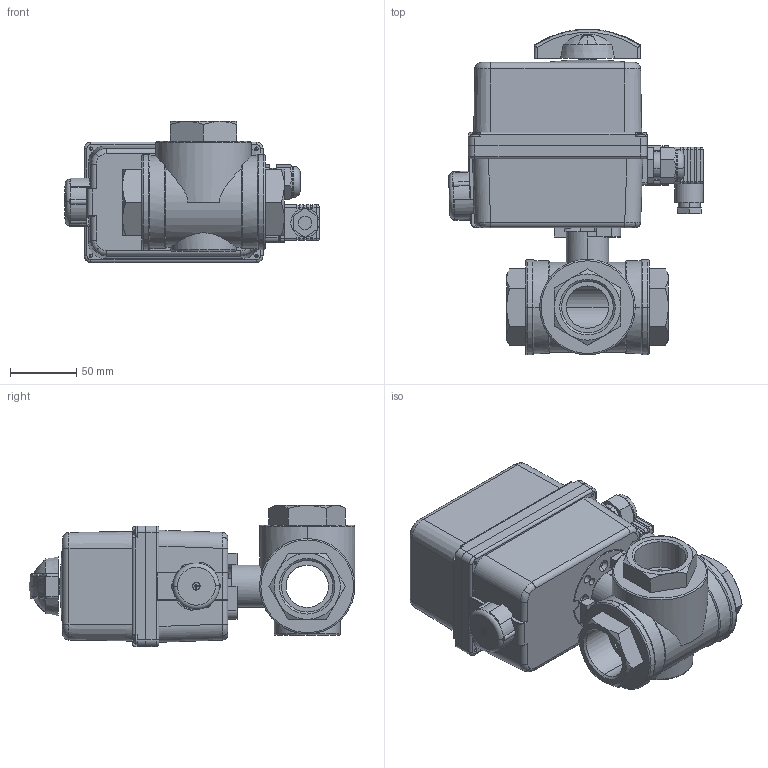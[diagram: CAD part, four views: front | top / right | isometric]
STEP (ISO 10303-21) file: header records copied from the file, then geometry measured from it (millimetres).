
FILE_DESCRIPTION (( 'STEP AP214' ), '1' );
FILE_NAME ('A35 DN32 + ER10_20.STEP', '2012-04-20T13:47:11', ( '' ), ( '' ), 'SwSTEP 2.0', 'SolidWorks 2011', '' );
FILE_SCHEMA (( 'AUTOMOTIVE_DESIGN' ));
Length unit declared in the file: millimetre
Products named in the file (18): Connector ECD.1; Warteldoorvoer M20; Moer voor Connector 2; Bout M3x30; ER10-20-35 Connector 2; ER10-20-35 Pakking; ER10-20-35 Connector 1; ER10-20-35 Indicator; ER10-20-35 Knop 3 - Lang; Cross FH Tapping 7976_DIN_Tapping screw DIN 7982-ST2.9x19-C-H-N; ER10-20-35 Knop 1 - Declutch; Schijf F03 F05; Sheet Metal Screws_DIN_Tapping screw DIN 7049-ST3.5x16-C-H-N; ER10-20-35 Afdekkap; ER10-20-35 Aandrijving; Ballvalve A35-DN32 G1 1_4; A35 DN32 + ER10_20; ER10-20
Assembly tree (21 placements, depth 4):
  A35 DN32 + ER10_20
    ER10-20
      ER10-20-35 Indicator  x2
      Sheet Metal Screws_DIN_Tapping screw DIN 7049-ST3.5x16-C-H-N  x4
      Cross FH Tapping 7976_DIN_Tapping screw DIN 7982-ST2.9x19-C-H-N
      ER10-20-35 Knop 1 - Declutch
      Schijf F03 F05
      Warteldoorvoer M20
      ER10-20-35 Knop 3 - Lang
      Connector ECD.1
        Moer voor Connector 2
        Bout M3x30
        ER10-20-35 Connector 1
        ER10-20-35 Connector 2
        ER10-20-35 Pakking
      ER10-20-35 Afdekkap
      ER10-20-35 Aandrijving
    Ballvalve A35-DN32 G1 1_4
Bounding box: 192.34 x 246 x 106.5 mm (x, y, z)
Volume: 1795596.6 mm3; surface area: 216427.8 mm2
Topology: 19 solids, 19 shells, 1106 faces, 2836 edges, 1827 vertices
Faces by surface type: plane 510, cylinder 365, bspline 95, cone 71, torus 51, sphere 14
Entity records: 38586 total; most frequent: CARTESIAN_POINT 10934, ORIENTED_EDGE 5098, DIRECTION 4967, EDGE_CURVE 2549, AXIS2_PLACEMENT_3D 1799, VERTEX_POINT 1650, LINE 1369, VECTOR 1369
